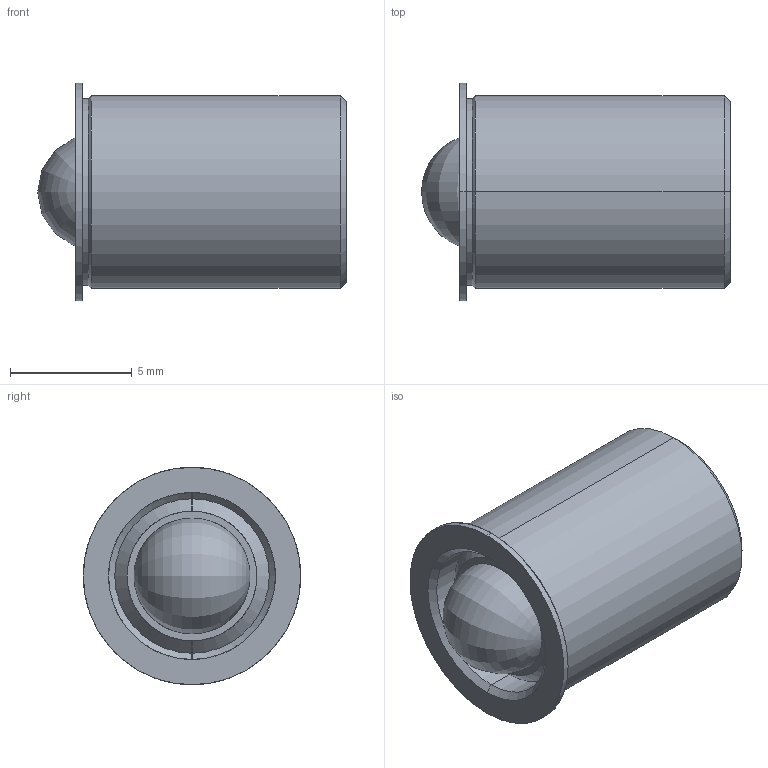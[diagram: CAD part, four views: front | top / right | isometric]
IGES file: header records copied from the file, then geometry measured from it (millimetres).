
Start section: SolidWorks IGES file using analytic representation for surfaces
Global section: file name: C:\Users\workpc\Desktop\KMA Solidworks\TSB250-80-500_437-AA.IGS; native system: SolidWorks 2013; preprocessor: SolidWorks 2013; author: workpc; date: 130314.082018; units: inch
Bounding box: 12.7 x 8.94 x 8.94 mm (x, y, z)
Surface area: 693.8 mm2 (no closed solid volume)
Topology: 0 solids, 0 shells, 33 faces, 406 edges, 402 vertices
Faces by surface type: revolution 22, bspline 11
